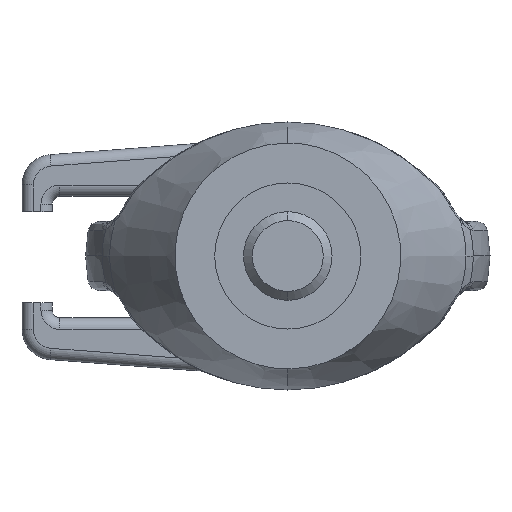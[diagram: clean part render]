
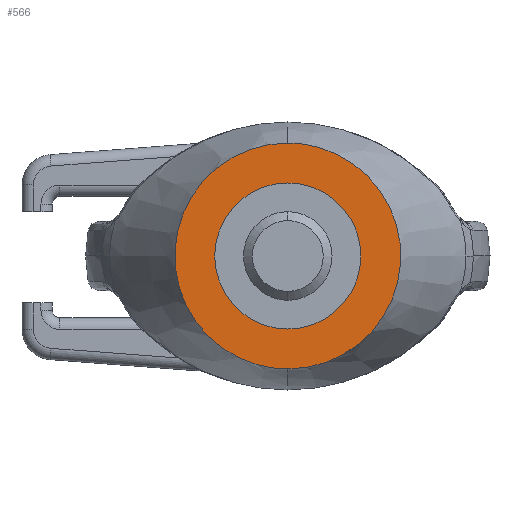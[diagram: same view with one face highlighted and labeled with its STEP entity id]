
A CAD part, front view. The second image highlights one B-rep face of the part: STEP entity #566.
In plain terms, the highlighted planar face has unit normal (0, -1, 0).
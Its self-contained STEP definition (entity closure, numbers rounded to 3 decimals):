
#566=ADVANCED_FACE('',(#1494,#1495),#1496,.F.);
#1494=FACE_OUTER_BOUND('',#2788,.T.);
#1495=FACE_BOUND('',#2789,.T.);
#1496=PLANE('',#2790);
#2788=EDGE_LOOP('',(#9761,#9762));
#2789=EDGE_LOOP('',(#9763,#9764));
#2790=AXIS2_PLACEMENT_3D('',#9765,#9766,#9767);
#9761=ORIENTED_EDGE('',*,*,#12887,.T.);
#9762=ORIENTED_EDGE('',*,*,#12888,.T.);
#9763=ORIENTED_EDGE('',*,*,#12615,.F.);
#9764=ORIENTED_EDGE('',*,*,#12889,.F.);
#9765=CARTESIAN_POINT('',(0.,0.0,0.0));
#9766=DIRECTION('',(0.0,1.0,0.0));
#9767=DIRECTION('',(1.0,0.0,-0.0));
#12615=EDGE_CURVE('',#14136,#14139,#14140,.T.);
#12887=EDGE_CURVE('',#14629,#14630,#14631,.T.);
#12888=EDGE_CURVE('',#14630,#14629,#14632,.T.);
#12889=EDGE_CURVE('',#14139,#14136,#14633,.T.);
#14136=VERTEX_POINT('',#16313);
#14139=VERTEX_POINT('',#16317);
#14140=CIRCLE('',#16318,8.25);
#14629=VERTEX_POINT('',#17688);
#14630=VERTEX_POINT('',#17689);
#14631=B_SPLINE_CURVE_WITH_KNOTS('',3,(#17690,#17691,#17692,#17693,#17694,#17695,#17696,#17697,#17698,#17699,#17700,#17701,#17702,#17703,#17704,#17705,#17706,#17707,#17708,#17709,#17710,#17711,#17712,#17713,#17714,#17715,#17716,#17717,#17718,#17719,#17720,#17721,#17722,#17723,#17724,#17725,#17726,#17727,#17728,#17729,#17730,#17731,#17732,#17733,#17734,#17735,#17736,#17737,#17738),.UNSPECIFIED.,.F.,.F.,(4,3,3,3,3,3,3,3,3,3,3,3,3,3,3,3,4),(0.,0.063,0.125,0.188,0.25,0.313,0.375,0.438,0.5,0.563,0.625,0.688,0.75,0.813,0.875,0.937,1.),.UNSPECIFIED.);
#14632=B_SPLINE_CURVE_WITH_KNOTS('',3,(#17739,#17740,#17741,#17742,#17743,#17744,#17745,#17746,#17747,#17748,#17749,#17750,#17751,#17752,#17753,#17754,#17755,#17756,#17757,#17758,#17759,#17760,#17761,#17762,#17763,#17764,#17765,#17766,#17767,#17768,#17769,#17770,#17771,#17772,#17773,#17774,#17775,#17776,#17777,#17778,#17779,#17780,#17781,#17782,#17783,#17784,#17785,#17786,#17787),.UNSPECIFIED.,.F.,.F.,(4,3,3,3,3,3,3,3,3,3,3,3,3,3,3,3,4),(0.,0.063,0.125,0.188,0.25,0.313,0.375,0.438,0.5,0.563,0.625,0.688,0.75,0.813,0.875,0.937,1.),.UNSPECIFIED.);
#14633=CIRCLE('',#17788,8.25);
#16313=CARTESIAN_POINT('',(0.0,0.0,-8.25));
#16317=CARTESIAN_POINT('',(0.,0.0,8.25));
#16318=AXIS2_PLACEMENT_3D('',#23638,#23639,#23640);
#17688=CARTESIAN_POINT('',(0.,0.,-12.75));
#17689=CARTESIAN_POINT('',(0.,0.,12.75));
#17690=CARTESIAN_POINT('',(0.,0.,-12.75));
#17691=CARTESIAN_POINT('',(0.834,0.,-12.75));
#17692=CARTESIAN_POINT('',(1.669,0.,-12.668));
#17693=CARTESIAN_POINT('',(2.487,0.,-12.505));
#17694=CARTESIAN_POINT('',(3.306,0.,-12.342));
#17695=CARTESIAN_POINT('',(4.108,0.,-12.099));
#17696=CARTESIAN_POINT('',(4.879,0.,-11.779));
#17697=CARTESIAN_POINT('',(5.65,0.,-11.46));
#17698=CARTESIAN_POINT('',(6.39,0.,-11.065));
#17699=CARTESIAN_POINT('',(7.084,0.,-10.601));
#17700=CARTESIAN_POINT('',(7.777,0.,-10.138));
#17701=CARTESIAN_POINT('',(8.426,0.,-9.606));
#17702=CARTESIAN_POINT('',(9.016,0.,-9.016));
#17703=CARTESIAN_POINT('',(9.606,0.,-8.426));
#17704=CARTESIAN_POINT('',(10.138,0.,-7.777));
#17705=CARTESIAN_POINT('',(10.601,0.,-7.084));
#17706=CARTESIAN_POINT('',(11.065,0.,-6.39));
#17707=CARTESIAN_POINT('',(11.46,0.,-5.65));
#17708=CARTESIAN_POINT('',(11.779,0.,-4.879));
#17709=CARTESIAN_POINT('',(12.099,0.,-4.108));
#17710=CARTESIAN_POINT('',(12.342,0.,-3.306));
#17711=CARTESIAN_POINT('',(12.505,0.,-2.487));
#17712=CARTESIAN_POINT('',(12.668,0.,-1.669));
#17713=CARTESIAN_POINT('',(12.75,0.,-0.834));
#17714=CARTESIAN_POINT('',(12.75,0.,0.));
#17715=CARTESIAN_POINT('',(12.75,0.,0.834));
#17716=CARTESIAN_POINT('',(12.668,0.,1.669));
#17717=CARTESIAN_POINT('',(12.505,0.,2.487));
#17718=CARTESIAN_POINT('',(12.342,0.,3.306));
#17719=CARTESIAN_POINT('',(12.099,0.,4.108));
#17720=CARTESIAN_POINT('',(11.779,0.,4.879));
#17721=CARTESIAN_POINT('',(11.46,0.,5.65));
#17722=CARTESIAN_POINT('',(11.065,0.,6.39));
#17723=CARTESIAN_POINT('',(10.601,0.,7.084));
#17724=CARTESIAN_POINT('',(10.138,0.,7.777));
#17725=CARTESIAN_POINT('',(9.606,0.,8.426));
#17726=CARTESIAN_POINT('',(9.016,0.,9.016));
#17727=CARTESIAN_POINT('',(8.426,0.,9.606));
#17728=CARTESIAN_POINT('',(7.777,0.,10.138));
#17729=CARTESIAN_POINT('',(7.084,0.,10.601));
#17730=CARTESIAN_POINT('',(6.39,0.,11.065));
#17731=CARTESIAN_POINT('',(5.65,0.,11.46));
#17732=CARTESIAN_POINT('',(4.879,0.,11.779));
#17733=CARTESIAN_POINT('',(4.108,0.,12.099));
#17734=CARTESIAN_POINT('',(3.306,0.,12.342));
#17735=CARTESIAN_POINT('',(2.487,0.,12.505));
#17736=CARTESIAN_POINT('',(1.669,0.,12.668));
#17737=CARTESIAN_POINT('',(0.834,0.,12.75));
#17738=CARTESIAN_POINT('',(0.,0.,12.75));
#17739=CARTESIAN_POINT('',(0.,0.,12.75));
#17740=CARTESIAN_POINT('',(-0.834,0.,12.75));
#17741=CARTESIAN_POINT('',(-1.669,0.,12.668));
#17742=CARTESIAN_POINT('',(-2.487,0.,12.505));
#17743=CARTESIAN_POINT('',(-3.306,0.,12.342));
#17744=CARTESIAN_POINT('',(-4.108,0.,12.099));
#17745=CARTESIAN_POINT('',(-4.879,0.,11.779));
#17746=CARTESIAN_POINT('',(-5.65,0.,11.46));
#17747=CARTESIAN_POINT('',(-6.39,0.,11.065));
#17748=CARTESIAN_POINT('',(-7.084,0.,10.601));
#17749=CARTESIAN_POINT('',(-7.777,0.,10.138));
#17750=CARTESIAN_POINT('',(-8.426,0.,9.606));
#17751=CARTESIAN_POINT('',(-9.016,0.,9.016));
#17752=CARTESIAN_POINT('',(-9.606,0.,8.426));
#17753=CARTESIAN_POINT('',(-10.138,0.,7.777));
#17754=CARTESIAN_POINT('',(-10.601,0.,7.084));
#17755=CARTESIAN_POINT('',(-11.065,0.,6.39));
#17756=CARTESIAN_POINT('',(-11.46,0.,5.65));
#17757=CARTESIAN_POINT('',(-11.779,0.,4.879));
#17758=CARTESIAN_POINT('',(-12.099,0.,4.108));
#17759=CARTESIAN_POINT('',(-12.342,0.,3.306));
#17760=CARTESIAN_POINT('',(-12.505,0.,2.487));
#17761=CARTESIAN_POINT('',(-12.668,0.,1.669));
#17762=CARTESIAN_POINT('',(-12.75,0.,0.834));
#17763=CARTESIAN_POINT('',(-12.75,0.,0.));
#17764=CARTESIAN_POINT('',(-12.75,0.,-0.834));
#17765=CARTESIAN_POINT('',(-12.668,0.,-1.669));
#17766=CARTESIAN_POINT('',(-12.505,0.,-2.487));
#17767=CARTESIAN_POINT('',(-12.342,0.,-3.306));
#17768=CARTESIAN_POINT('',(-12.099,0.,-4.108));
#17769=CARTESIAN_POINT('',(-11.779,0.,-4.879));
#17770=CARTESIAN_POINT('',(-11.46,0.,-5.65));
#17771=CARTESIAN_POINT('',(-11.065,0.,-6.39));
#17772=CARTESIAN_POINT('',(-10.601,0.,-7.084));
#17773=CARTESIAN_POINT('',(-10.138,0.,-7.777));
#17774=CARTESIAN_POINT('',(-9.606,0.,-8.426));
#17775=CARTESIAN_POINT('',(-9.016,0.,-9.016));
#17776=CARTESIAN_POINT('',(-8.426,0.,-9.606));
#17777=CARTESIAN_POINT('',(-7.777,0.,-10.138));
#17778=CARTESIAN_POINT('',(-7.084,0.,-10.601));
#17779=CARTESIAN_POINT('',(-6.39,0.,-11.065));
#17780=CARTESIAN_POINT('',(-5.65,0.,-11.46));
#17781=CARTESIAN_POINT('',(-4.879,0.,-11.779));
#17782=CARTESIAN_POINT('',(-4.108,0.,-12.099));
#17783=CARTESIAN_POINT('',(-3.306,0.,-12.342));
#17784=CARTESIAN_POINT('',(-2.487,0.,-12.505));
#17785=CARTESIAN_POINT('',(-1.669,0.,-12.668));
#17786=CARTESIAN_POINT('',(-0.834,0.,-12.75));
#17787=CARTESIAN_POINT('',(0.,0.,-12.75));
#17788=AXIS2_PLACEMENT_3D('',#24031,#24032,#24033);
#23638=CARTESIAN_POINT('',(0.0,0.0,0.0));
#23639=DIRECTION('',(0.0,-1.0,0.0));
#23640=DIRECTION('',(0.0,0.0,-1.0));
#24031=CARTESIAN_POINT('',(0.0,0.0,0.0));
#24032=DIRECTION('',(0.0,-1.0,0.0));
#24033=DIRECTION('',(0.0,0.0,-1.0));
